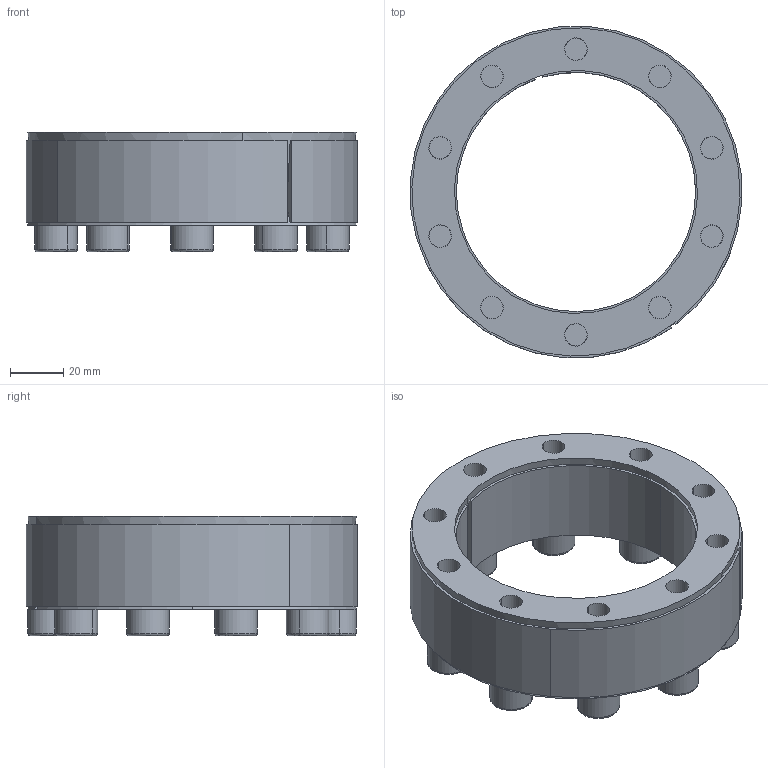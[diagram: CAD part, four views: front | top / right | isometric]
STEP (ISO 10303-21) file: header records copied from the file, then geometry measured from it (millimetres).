
FILE_DESCRIPTION (( 'STEP AP214' ), '1' );
FILE_NAME ('CONEX-L-90x125.step', '2013-04-06T13:23:31', ( 'Pc' ), ( '' ), 'SwSTEP 2.0', 'SolidWorks 2013', '' );
FILE_SCHEMA (( 'AUTOMOTIVE_DESIGN' ));
Length unit declared in the file: millimetre
Products named in the file (1): CONEX-L-90x125
Bounding box: 124.69 x 124.61 x 45.03 mm (x, y, z)
Volume: 195994.8 mm3; surface area: 101988.5 mm2
Topology: 13 solids, 13 shells, 353 faces, 809 edges, 482 vertices
Faces by surface type: plane 161, cylinder 96, cone 56, torus 40
Entity records: 13937 total; most frequent: DIRECTION 1870, CARTESIAN_POINT 1661, ORIENTED_EDGE 1578, EDGE_CURVE 789, AXIS2_PLACEMENT_3D 735, VERTEX_POINT 482, EDGE_LOOP 425, LINE 400
